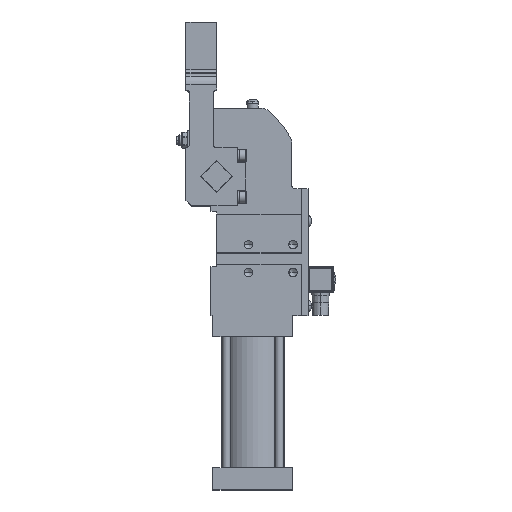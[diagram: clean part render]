
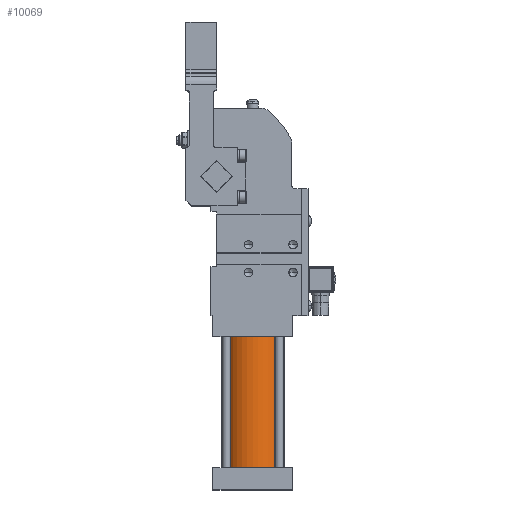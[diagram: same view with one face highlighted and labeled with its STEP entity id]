
A CAD part, top view. The second image highlights one B-rep face of the part: STEP entity #10069.
In plain terms, the highlighted cylindrical face has radius 22.5 mm (diameter 45 mm), a partial arc.
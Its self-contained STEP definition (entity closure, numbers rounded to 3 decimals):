
#550=CARTESIAN_POINT('',(-5.852,-112.104,25.));
#551=VERTEX_POINT('',#550);
#552=CARTESIAN_POINT('',(-5.852,-206.304,25.));
#553=VERTEX_POINT('',#552);
#554=CARTESIAN_POINT('',(-5.852,-112.104,25.));
#555=DIRECTION('',(0.0,-1.0,0.0));
#556=VECTOR('',#555,94.2);
#557=LINE('',#554,#556);
#558=EDGE_CURVE('',#551,#553,#557,.T.);
#560=CARTESIAN_POINT('',(39.148,-112.104,25.0));
#561=VERTEX_POINT('',#560);
#569=CARTESIAN_POINT('',(39.148,-206.304,25.));
#570=VERTEX_POINT('',#569);
#571=CARTESIAN_POINT('',(39.148,-206.304,25.));
#572=DIRECTION('',(0.0,1.0,0.0));
#573=VECTOR('',#572,94.2);
#574=LINE('',#571,#573);
#575=EDGE_CURVE('',#570,#561,#574,.T.);
#9364=CARTESIAN_POINT('',(16.648,-206.304,25.0));
#9365=DIRECTION('',(0.0,1.0,0.0));
#9366=DIRECTION('',(-1.0,0.0,0.0));
#9367=AXIS2_PLACEMENT_3D('',#9364,#9365,#9366);
#9368=CIRCLE('',#9367,22.5);
#9369=EDGE_CURVE('',#553,#570,#9368,.T.);
#10052=CARTESIAN_POINT('',(16.648,-112.104,25.0));
#10053=DIRECTION('',(0.0,-1.0,0.0));
#10054=DIRECTION('',(-1.0,0.0,0.0));
#10055=AXIS2_PLACEMENT_3D('',#10052,#10053,#10054);
#10056=CYLINDRICAL_SURFACE('',#10055,22.5);
#10057=ORIENTED_EDGE('',*,*,#558,.T.);
#10058=ORIENTED_EDGE('',*,*,#9369,.T.);
#10059=ORIENTED_EDGE('',*,*,#575,.T.);
#10060=CARTESIAN_POINT('',(16.648,-112.104,25.0));
#10061=DIRECTION('',(0.0,1.0,0.0));
#10062=DIRECTION('',(-1.0,0.0,0.0));
#10063=AXIS2_PLACEMENT_3D('',#10060,#10061,#10062);
#10064=CIRCLE('',#10063,22.5);
#10065=EDGE_CURVE('',#551,#561,#10064,.T.);
#10066=ORIENTED_EDGE('',*,*,#10065,.F.);
#10067=EDGE_LOOP('',(#10057,#10058,#10059,#10066));
#10068=FACE_OUTER_BOUND('',#10067,.T.);
#10069=ADVANCED_FACE('',(#10068),#10056,.T.);
